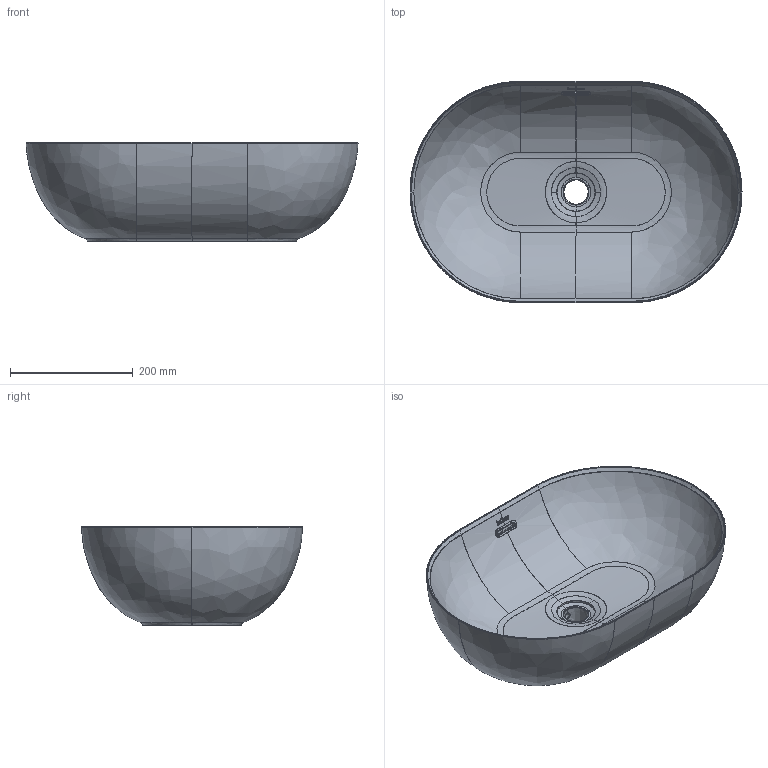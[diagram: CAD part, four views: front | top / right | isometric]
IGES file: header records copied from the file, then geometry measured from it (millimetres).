
Global section: file name: C:\Users\User\Desktop\Lavabos 3D\4129 Livorno Peque; native system: Rhinoceros ( Feb 26 2015 ); preprocessor: Trout Lake IGES 012 Feb 26 2015; date: 191022.044600; units: millimetre
Bounding box: 539.95 x 359.95 x 160 mm (x, y, z)
Surface area: 960269 mm2 (no closed solid volume)
Topology: 0 solids, 0 shells, 259 faces, 3664 edges, 3660 vertices
Faces by surface type: bspline 259
